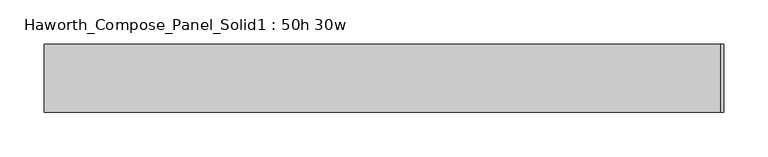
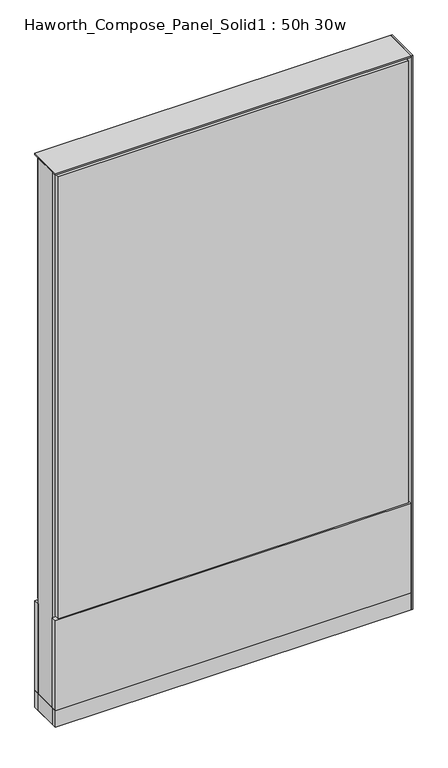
"""IFC4 building model written with IfcOpenShell, lengths in millimetres: furniture geometry, Haworth_Compose_Panel_Solid1 : 50h 30w."""

from ifc_helpers import new_model, si_unit, point, frame, frame_2d, origin, origin_with_axes, place, context, project, spatial, polyline, circle_curve, trimmed, segment, composite_curve, outline, extrude, source, transform, mapped, element, save


def haworth_compose_panel_solid1_50h_30w_0f3b6f30(model_context):
    return source(origin(), model_context, "Body", "SweptSolid", [
        extrude(outline(composite_curve([segment(trimmed(circle_curve(frame_2d((-302.3597098, 0.0)), 12.7), [point((-315.0597098, 0.0))], [point((-289.6597098, 0.0))], False, "CARTESIAN"), True, "CONTINUOUS"), segment(trimmed(circle_curve(frame_2d((-302.3597098, 0.0)), 12.7), [point((-289.6597098, 0.0))], [point((-315.0597098, 0.0))], False, "CARTESIAN"), True, "CONTINUOUS")], self_intersect=False)), origin_with_axes(), (0.0, 0.0, 1.0), 12.7),
        extrude(outline(composite_curve([segment(trimmed(circle_curve(frame_2d((307.2402902, 0.0)), 12.7), [point((294.5402902, 0.0))], [point((319.9402902, 0.0))], False, "CARTESIAN"), True, "CONTINUOUS"), segment(trimmed(circle_curve(frame_2d((307.2402902, 0.0)), 12.7), [point((319.9402902, 0.0))], [point((294.5402902, 0.0))], False, "CARTESIAN"), True, "CONTINUOUS")], self_intersect=False)), origin_with_axes(), (0.0, 0.0, 1.0), 12.7),
        extrude(outline(polyline([(386.6152902, 38.1), (386.6152902, -38.1), (383.4402902, -38.1), (383.4402902, 38.1), (386.6152902, 38.1)])), frame((0.0, 0.0, 12.7), z_axis=(0.0, 0.0, 1.0), x_axis=(1.0, 0.0, 0.0)), (0.0, 0.0, 1.0), 1254.125),
        extrude(outline(polyline([(377.0902902, 38.1), (377.0902902, 25.4), (-372.2097098, 25.4), (-372.2097098, 38.1), (377.0902902, 38.1)])), frame((0.0, 0.0, 257.175), z_axis=(0.0, 0.0, 1.0), x_axis=(1.0, 0.0, 0.0)), (0.0, 0.0, 1.0), 1000.125),
        extrude(outline(polyline([(383.4402902, 38.1), (383.4402902, 25.4), (-378.5597098, 25.4), (-378.5597098, 38.1), (383.4402902, 38.1)])), frame((0.0, 0.0, 50.8), z_axis=(0.0, 0.0, 1.0), x_axis=(1.0, 0.0, 0.0)), (0.0, 0.0, 1.0), 203.2),
        extrude(outline(polyline([(383.4402902, -38.1), (-378.5597098, -38.1), (-378.5597098, -25.4), (383.4402902, -25.4), (383.4402902, -38.1)])), frame((0.0, 0.0, 50.8), z_axis=(0.0, 0.0, 1.0), x_axis=(1.0, 0.0, 0.0)), (0.0, 0.0, 1.0), 203.2),
        extrude(outline(polyline([(377.0902902, -38.1), (-372.2097098, -38.1), (-372.2097098, -25.4), (377.0902902, -25.4), (377.0902902, -38.1)])), frame((0.0, 0.0, 257.175), z_axis=(0.0, 0.0, 1.0), x_axis=(1.0, 0.0, 0.0)), (0.0, 0.0, 1.0), 1000.125),
        extrude(outline(polyline([(383.4402902, 25.4), (383.4402902, -25.4), (-378.5597098, -25.4), (-378.5597098, 25.4), (383.4402902, 25.4)])), frame((0.0, 0.0, 12.7), z_axis=(0.0, 0.0, 1.0), x_axis=(1.0, 0.0, 0.0)), (0.0, 0.0, 1.0), 1250.95),
        extrude(outline(polyline([(-378.5597098, -38.1), (-378.5597098, 38.1), (383.4402902, 38.1), (383.4402902, -38.1), (-378.5597098, -38.1)])), frame((0.0, 0.0, 12.7), z_axis=(0.0, 0.0, 1.0), x_axis=(1.0, 0.0, 0.0)), (0.0, 0.0, 1.0), 38.1),
        extrude(outline(polyline([(-378.5597098, -38.1), (-378.5597098, 38.1), (383.4402902, 38.1), (383.4402902, -38.1), (-378.5597098, -38.1)])), frame((0.0, 0.0, 1263.65), z_axis=(0.0, 0.0, 1.0), x_axis=(1.0, 0.0, 0.0)), (0.0, 0.0, 1.0), 3.175),
    ])


if __name__ == "__main__":
    model = new_model("IFC4")
    model_context = context("Model", 3, world=origin())
    ifc_project = project(units=[si_unit("LENGTHUNIT", "METRE", prefix="MILLI")], contexts=[model_context])
    site = spatial("IfcSite", under=ifc_project)
    building = spatial("IfcBuilding", under=site)
    placement = place(None, origin())
    haworth_compose_panel_solid1_50h_30w_shape = haworth_compose_panel_solid1_50h_30w_0f3b6f30(model_context)
    element("IfcFurniture", 1, ObjectType="Haworth_Compose_Panel_Solid1 : 50h 30w", at=placement, inside=building, context=model_context, shape_type="MappedRepresentation", body=[
        mapped(haworth_compose_panel_solid1_50h_30w_shape, transform((0.0, 0.0, 0.0), x_axis=(1.0, 0.0, 0.0), y_axis=(0.0, 1.0, 0.0), z_axis=(0.0, 0.0, 1.0))),
    ])
    save(model, "model.ifc")
